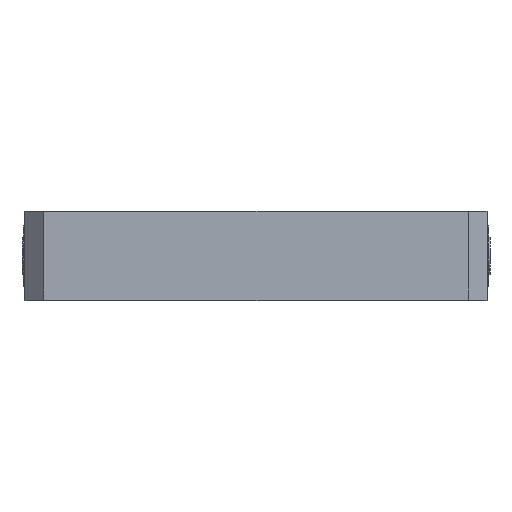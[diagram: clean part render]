
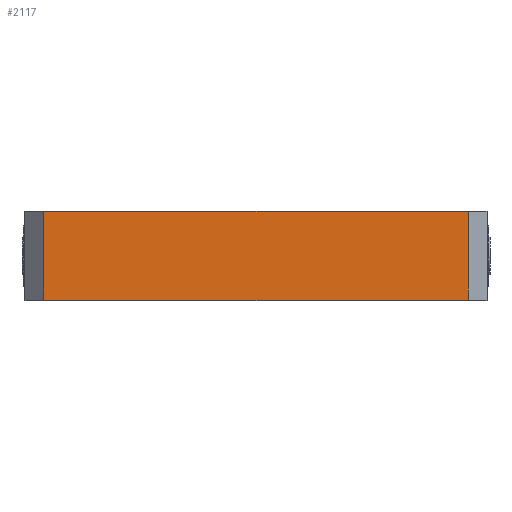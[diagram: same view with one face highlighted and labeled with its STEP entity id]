
A CAD part, top view. The second image highlights one B-rep face of the part: STEP entity #2117.
In plain terms, the highlighted planar face has unit normal (0, 0, 1).
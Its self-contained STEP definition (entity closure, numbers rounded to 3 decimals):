
#382 = EDGE_CURVE ( 'NONE', #6393, #3599, #4274, .T. ) ;
#725 = DIRECTION ( 'NONE',  ( -1., 0., 0. ) ) ;
#955 = FACE_OUTER_BOUND ( 'NONE', #2321, .T. ) ;
#979 = CARTESIAN_POINT ( 'NONE',  ( 71.65, 30., 63. ) ) ;
#1582 = DIRECTION ( 'NONE',  ( 1., 0., 0. ) ) ;
#1686 = CARTESIAN_POINT ( 'NONE',  ( -71.65, 0., 63. ) ) ;
#1802 = PLANE ( 'NONE',  #2478 ) ;
#1827 = VECTOR ( 'NONE', #5146, 1000. ) ;
#2117 = ADVANCED_FACE ( 'NONE', ( #955 ), #1802, .F. ) ;
#2265 = ORIENTED_EDGE ( 'NONE', *, *, #3035, .F. ) ;
#2321 = EDGE_LOOP ( 'NONE', ( #2265, #3028, #3210, #2348 ) ) ;
#2348 = ORIENTED_EDGE ( 'NONE', *, *, #5904, .T. ) ;
#2402 = VECTOR ( 'NONE', #6505, 1000. ) ;
#2478 = AXIS2_PLACEMENT_3D ( 'NONE', #3342, #4423, #725 ) ;
#2989 = CARTESIAN_POINT ( 'NONE',  ( -71.65, 30., 63. ) ) ;
#3028 = ORIENTED_EDGE ( 'NONE', *, *, #382, .T. ) ;
#3035 = EDGE_CURVE ( 'NONE', #6393, #4291, #3377, .T. ) ;
#3210 = ORIENTED_EDGE ( 'NONE', *, *, #3981, .T. ) ;
#3342 = CARTESIAN_POINT ( 'NONE',  ( -78., 30., 63. ) ) ;
#3377 = LINE ( 'NONE', #4816, #6326 ) ;
#3599 = VERTEX_POINT ( 'NONE', #1686 ) ;
#3811 = CARTESIAN_POINT ( 'NONE',  ( -78., 0., 63. ) ) ;
#3981 = EDGE_CURVE ( 'NONE', #3599, #5786, #4919, .T. ) ;
#4203 = CARTESIAN_POINT ( 'NONE',  ( -71.65, 30., 63. ) ) ;
#4274 = LINE ( 'NONE', #2989, #1827 ) ;
#4291 = VERTEX_POINT ( 'NONE', #979 ) ;
#4423 = DIRECTION ( 'NONE',  ( 0., 0., -1. ) ) ;
#4754 = DIRECTION ( 'NONE',  ( 0., 1., 0. ) ) ;
#4816 = CARTESIAN_POINT ( 'NONE',  ( -78., 30., 63. ) ) ;
#4919 = LINE ( 'NONE', #3811, #2402 ) ;
#5146 = DIRECTION ( 'NONE',  ( 0., -1., 0. ) ) ;
#5153 = CARTESIAN_POINT ( 'NONE',  ( 71.65, 30., 63. ) ) ;
#5747 = VECTOR ( 'NONE', #4754, 1000. ) ;
#5786 = VERTEX_POINT ( 'NONE', #6825 ) ;
#5904 = EDGE_CURVE ( 'NONE', #5786, #4291, #5984, .T. ) ;
#5984 = LINE ( 'NONE', #5153, #5747 ) ;
#6326 = VECTOR ( 'NONE', #1582, 1000. ) ;
#6393 = VERTEX_POINT ( 'NONE', #4203 ) ;
#6505 = DIRECTION ( 'NONE',  ( 1., 0., 0. ) ) ;
#6825 = CARTESIAN_POINT ( 'NONE',  ( 71.65, 0., 63. ) ) ;
